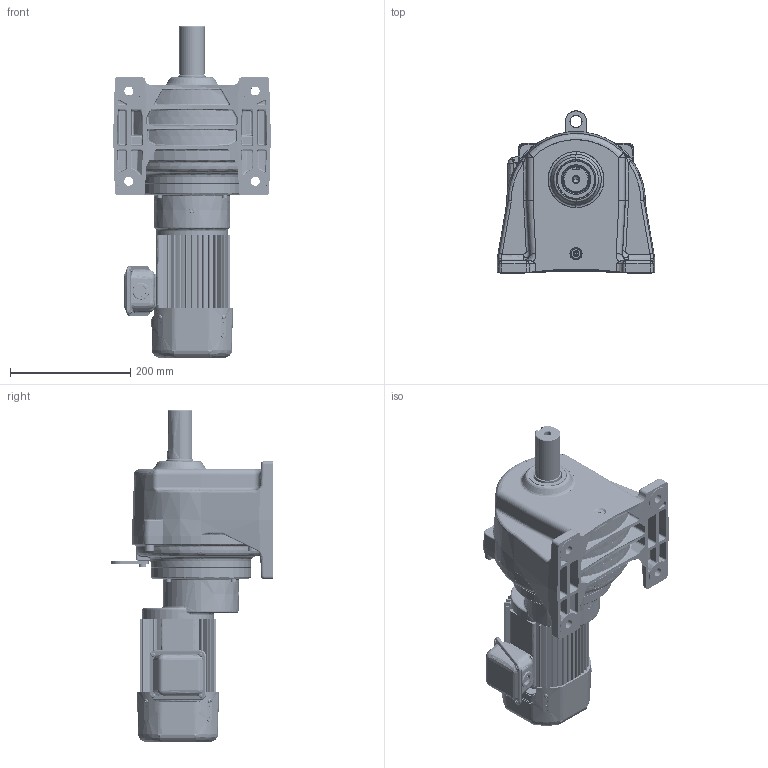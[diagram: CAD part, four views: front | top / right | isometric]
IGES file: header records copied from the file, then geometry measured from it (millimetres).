
Start section: SolidWorks IGES file using analytic representation for surfaces
Global section: file name: \\100.100.100.8\1_共有作業フォルダ\1-5_３Ｄデータ\solidworks\personal-folder\H.Nagayama\SGP1外形\P1(3D)\igs\TMF2-02-(300~450).IGS; native system: SolidWorks 2018; preprocessor: SolidWorks 2018; author: sigma-giken; date: 200721.160918; units: millimetre
Bounding box: 262 x 269.5 x 551.5 mm (x, y, z)
Surface area: 792866.6 mm2 (no closed solid volume)
Topology: 0 solids, 0 shells, 2352 faces, 30534 edges, 30481 vertices
Faces by surface type: bspline 1285, revolution 1067
